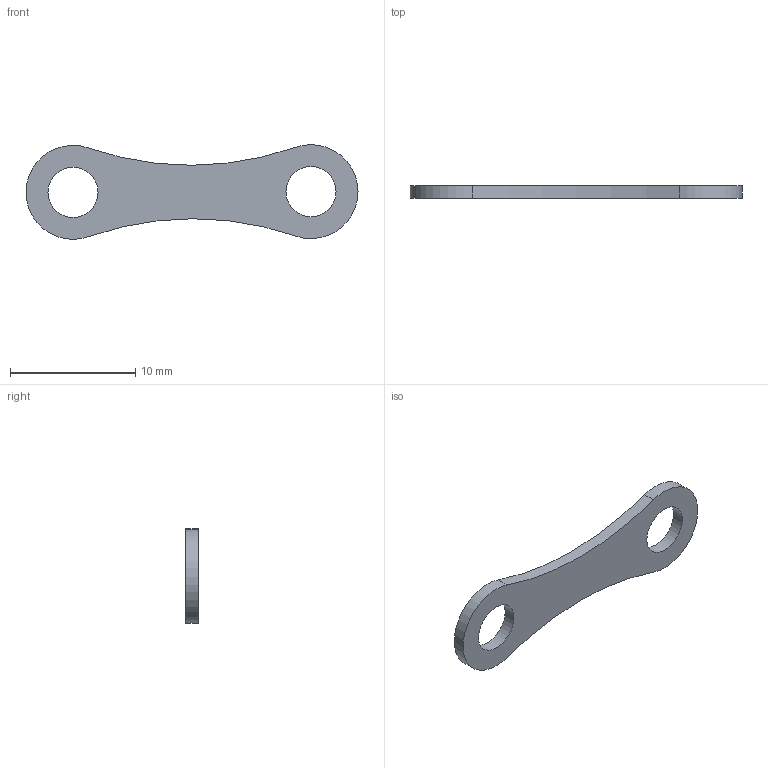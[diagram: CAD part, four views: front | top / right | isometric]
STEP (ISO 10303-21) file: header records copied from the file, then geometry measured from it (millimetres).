
FILE_DESCRIPTION(/* description */ (''),/* implementation_level */ '2;1');
FILE_NAME(/* name */ 'C:/Users/Ulises/Desktop/T1/mecanica_cad/espaciador_end_stop.step',/* time_stamp */ '2020-10-16T01:32:37-03:00',/* author */ (''),/* organization */ (''),/* preprocessor_version */ 'ST-DEVELOPER v18.1',/* originating_system */ 'Autodesk Translation Framework v9.3.0.1241',/* authorisation */ '');
FILE_SCHEMA (('AUTOMOTIVE_DESIGN { 1 0 10303 214 3 1 1 }'));
Length unit declared in the file: millimetre
Products named in the file (1): espaciador_end_stop
Bounding box: 26.5 x 1 x 7.56 mm (x, y, z)
Volume: 123.1 mm3; surface area: 333.7 mm2
Topology: 1 solids, 1 shells, 8 faces, 18 edges, 12 vertices
Faces by surface type: cylinder 6, plane 2
Full cylindrical faces by diameter (mm): 4 x2
Entity records: 282 total; most frequent: DIRECTION 48, CARTESIAN_POINT 39, ORIENTED_EDGE 36, AXIS2_PLACEMENT_3D 21, EDGE_CURVE 18, EDGE_LOOP 12, CIRCLE 12, VERTEX_POINT 12
